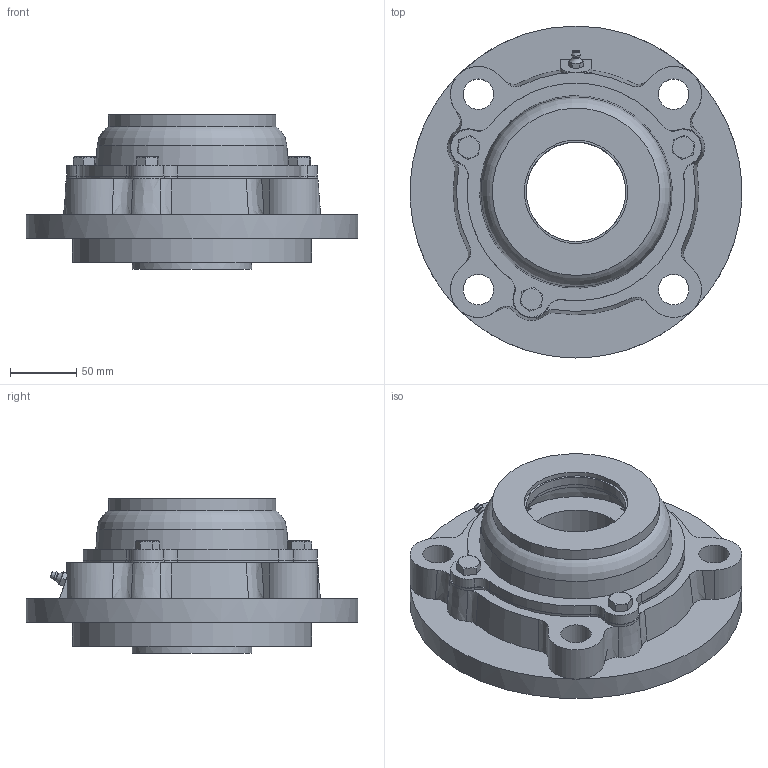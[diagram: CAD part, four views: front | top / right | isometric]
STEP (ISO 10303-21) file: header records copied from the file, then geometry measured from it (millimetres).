
FILE_DESCRIPTION((''),'2;1');
FILE_NAME('\\Ts-tgl068\j-cad-d-base\00.3DCADデータ作成フォルダ\02.フランジ形\CUKFC200\CUKFC217C+H.stp','2014-05-22T08:56:46',('btec_1106_2'),(''),'Autodesk Inventor 2012','Autodesk Inventor 2012','');
FILE_SCHEMA(('AUTOMOTIVE_DESIGN { 1 0 10303 214 1 1 1 1 }'));
Length unit declared in the file: millimetre
Products named in the file (7): CUKFC200C+H; CFC217; UK217; G1; 217C75R; 217C75; M10X1
Assembly tree (8 placements, depth 3):
  CUKFC200C+H
    CFC217
    UK217
    G1
    217C75R
      217C75
      M10X1  x3
Bounding box: 250 x 250 x 116 mm (x, y, z)
Volume: 1924743.1 mm3; surface area: 313258.8 mm2
Topology: 7 solids, 7 shells, 322 faces, 793 edges, 503 vertices
Faces by surface type: plane 126, cylinder 95, cone 79, bspline 14, sphere 4, torus 4
Full cylindrical faces by diameter (mm): 8.376 x3, 8.566 x1, 9.728 x1, 10 x3, 12 x3, 23 x4, 75 x2, 78 x2, 85 x1, 105 x2, 126 x1, 147 x1, 152 x2, 180 x1, 250 x1
Entity records: 9065 total; most frequent: CARTESIAN_POINT 2437, DIRECTION 1345, ORIENTED_EDGE 1324, EDGE_CURVE 662, AXIS2_PLACEMENT_3D 565, VERTEX_POINT 440, EDGE_LOOP 370, FACE_OUTER_BOUND 288
